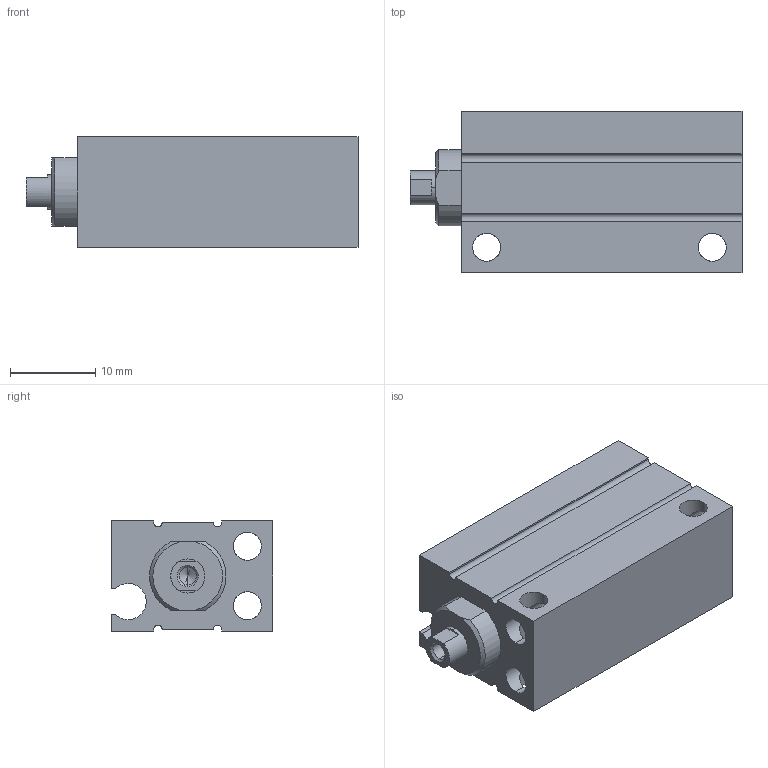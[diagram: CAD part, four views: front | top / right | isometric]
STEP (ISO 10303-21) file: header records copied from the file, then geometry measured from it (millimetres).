
FILE_DESCRIPTION (( 'STEP AP203' ), '1' );
FILE_NAME ('CLJB6-20.STEP', '2020-07-30T18:43:07', ( '' ), ( '' ), 'SwSTEP 2.0', 'SolidWorks 2019', '' );
FILE_SCHEMA (( 'CONFIG_CONTROL_DESIGN' ));
Length unit declared in the file: millimetre
Products named in the file (1): CLJB6-20
Bounding box: 39 x 19 x 13 mm (x, y, z)
Volume: 6677.6 mm3; surface area: 4787.8 mm2
Topology: 2 solids, 2 shells, 92 faces, 240 edges, 145 vertices
Faces by surface type: cylinder 49, plane 29, cone 14
Entity records: 2863 total; most frequent: CARTESIAN_POINT 580, ORIENTED_EDGE 468, DIRECTION 462, EDGE_CURVE 234, AXIS2_PLACEMENT_3D 171, VERTEX_POINT 145, LINE 120, VECTOR 120
